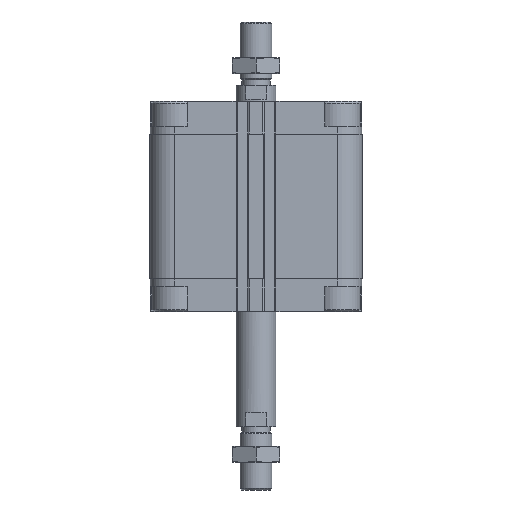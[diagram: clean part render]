
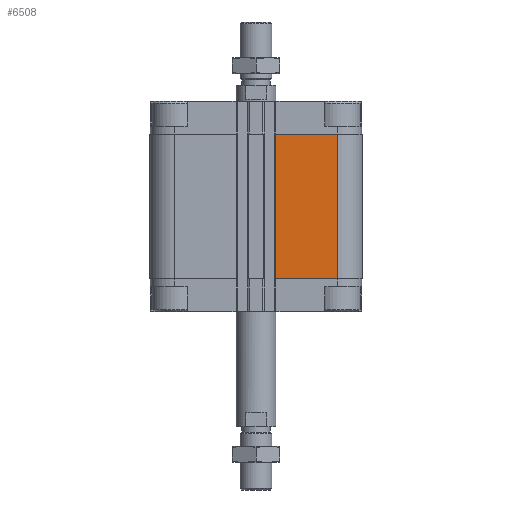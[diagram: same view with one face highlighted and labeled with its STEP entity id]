
A CAD part, front view. The second image highlights one B-rep face of the part: STEP entity #6508.
In plain terms, the highlighted planar face has unit normal (0, -1, 0).
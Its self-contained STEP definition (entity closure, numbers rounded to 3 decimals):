
#354 = CARTESIAN_POINT ( 'NONE',  ( 9.95, -53.5, -89.5 ) ) ;
#498 = VECTOR ( 'NONE', #11824, 1000. ) ;
#842 = ORIENTED_EDGE ( 'NONE', *, *, #9102, .F. ) ;
#1121 = LINE ( 'NONE', #3205, #16430 ) ;
#2295 = AXIS2_PLACEMENT_3D ( 'NONE', #8410, #15025, #6685 ) ;
#2797 = CARTESIAN_POINT ( 'NONE',  ( 9.95, -53.5, -16.5 ) ) ;
#2905 = VERTEX_POINT ( 'NONE', #2797 ) ;
#3205 = CARTESIAN_POINT ( 'NONE',  ( 9.95, -53.5, -16.5 ) ) ;
#3337 = VERTEX_POINT ( 'NONE', #9928 ) ;
#4053 = LINE ( 'NONE', #354, #10133 ) ;
#4346 = VECTOR ( 'NONE', #12380, 1000. ) ;
#5116 = LINE ( 'NONE', #17398, #498 ) ;
#6508 = ADVANCED_FACE ( 'NONE', ( #13616 ), #17231, .T. ) ;
#6685 = DIRECTION ( 'NONE',  ( -1., 0., 0. ) ) ;
#8410 = CARTESIAN_POINT ( 'NONE',  ( 9.95, -53.5, -89.5 ) ) ;
#8863 = EDGE_CURVE ( 'NONE', #9583, #3337, #5116, .T. ) ;
#9053 = EDGE_CURVE ( 'NONE', #9583, #2905, #4053, .T. ) ;
#9102 = EDGE_CURVE ( 'NONE', #2905, #20835, #1121, .T. ) ;
#9583 = VERTEX_POINT ( 'NONE', #20323 ) ;
#9751 = ORIENTED_EDGE ( 'NONE', *, *, #20392, .T. ) ;
#9928 = CARTESIAN_POINT ( 'NONE',  ( 41., -53.5, -89.5 ) ) ;
#10133 = VECTOR ( 'NONE', #16128, 1000. ) ;
#10238 = CARTESIAN_POINT ( 'NONE',  ( 41., -53.5, -16.5 ) ) ;
#11824 = DIRECTION ( 'NONE',  ( 1., 0., 0. ) ) ;
#12380 = DIRECTION ( 'NONE',  ( 0., 0., 1. ) ) ;
#13616 = FACE_OUTER_BOUND ( 'NONE', #19869, .T. ) ;
#13740 = DIRECTION ( 'NONE',  ( 1., 0., 0. ) ) ;
#14478 = ORIENTED_EDGE ( 'NONE', *, *, #8863, .T. ) ;
#15025 = DIRECTION ( 'NONE',  ( 0., -1., 0. ) ) ;
#16091 = LINE ( 'NONE', #19565, #4346 ) ;
#16128 = DIRECTION ( 'NONE',  ( 0., 0., 1. ) ) ;
#16430 = VECTOR ( 'NONE', #13740, 1000. ) ;
#17231 = PLANE ( 'NONE',  #2295 ) ;
#17398 = CARTESIAN_POINT ( 'NONE',  ( 9.95, -53.5, -89.5 ) ) ;
#17792 = ORIENTED_EDGE ( 'NONE', *, *, #9053, .F. ) ;
#19565 = CARTESIAN_POINT ( 'NONE',  ( 41., -53.5, -89.5 ) ) ;
#19869 = EDGE_LOOP ( 'NONE', ( #842, #17792, #14478, #9751 ) ) ;
#20323 = CARTESIAN_POINT ( 'NONE',  ( 9.95, -53.5, -89.5 ) ) ;
#20392 = EDGE_CURVE ( 'NONE', #3337, #20835, #16091, .T. ) ;
#20835 = VERTEX_POINT ( 'NONE', #10238 ) ;
